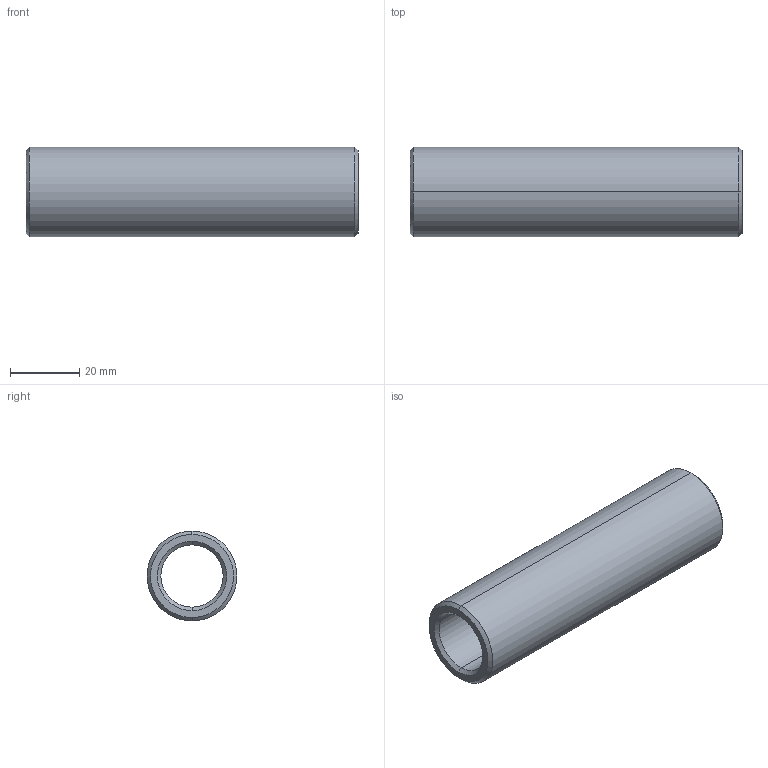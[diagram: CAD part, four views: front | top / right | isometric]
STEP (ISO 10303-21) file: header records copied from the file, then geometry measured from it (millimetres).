
FILE_DESCRIPTION(('CATIA V5 STEP Exchange'),'2;1');
FILE_NAME('C:\Users\Utente\Desktop\IO LAVORO\3D X SITO CF\X SITO\PLASTICA\352\352-18X96.stp','2021-04-12T15:36:51+00:00',('none'),('none'),'CATIA Version 5 Release 20 GA (IN-10)','CATIA V5 STEP AP203','none');
FILE_SCHEMA(('CONFIG_CONTROL_DESIGN'));
Length unit declared in the file: millimetre
Products named in the file (1): 352-18X96
Bounding box: 96 x 26 x 26 mm (x, y, z)
Volume: 26418.8 mm3; surface area: 13669.1 mm2
Topology: 1 solids, 1 shells, 14 faces, 44 edges, 32 vertices
Faces by surface type: cone 6, cylinder 4, plane 2, torus 2
Entity records: 634 total; most frequent: CARTESIAN_POINT 203, ORIENTED_EDGE 88, DIRECTION 64, EDGE_CURVE 44, AXIS2_PLACEMENT_3D 41, VERTEX_POINT 32, CIRCLE 26, EDGE_LOOP 16
